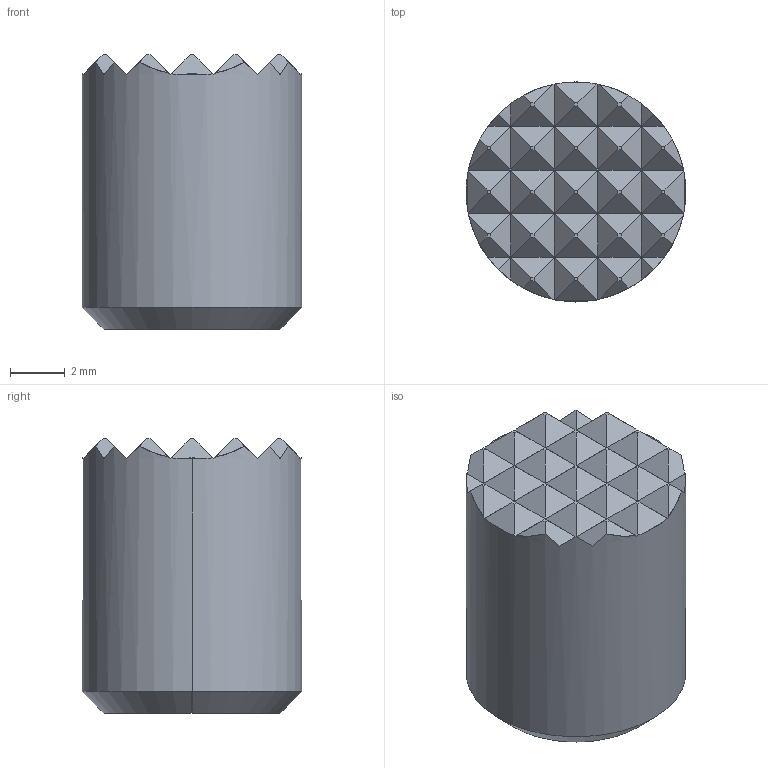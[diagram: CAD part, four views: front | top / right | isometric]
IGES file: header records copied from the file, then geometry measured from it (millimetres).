
Start section: SolidWorks IGES file using analytic representation for surfaces
Global section: file name: Y:\5.更新分\2023年対応\04xx_ALL\新しいフォルダー\HS-080\hs-080.IGS,15HSolidWorks; native system: 2021; preprocessor: SolidWorks 2021; author: ImaoCorp; date: 230615.172235; units: millimetre
Bounding box: 8 x 8 x 10 mm (x, y, z)
Surface area: 408.8 mm2 (no closed solid volume)
Topology: 0 solids, 0 shells, 125 faces, 668 edges, 668 vertices
Faces by surface type: bspline 119, revolution 6
